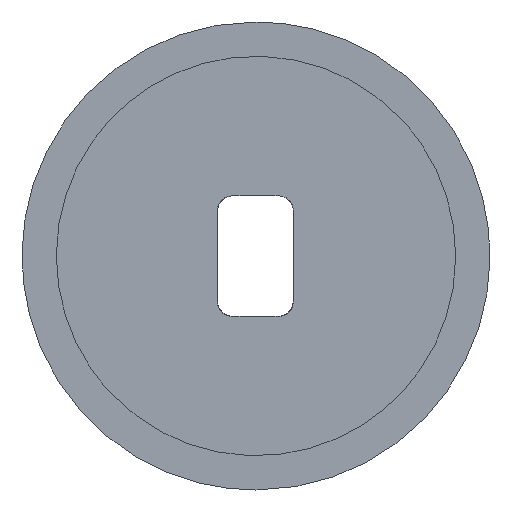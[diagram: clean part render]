
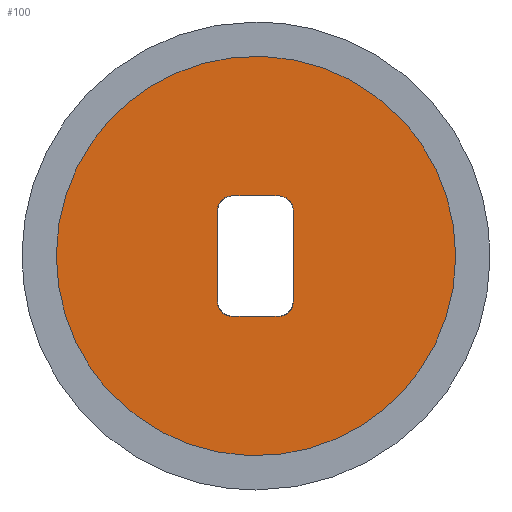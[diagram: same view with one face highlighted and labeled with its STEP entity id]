
A CAD part, front view. The second image highlights one B-rep face of the part: STEP entity #100.
In plain terms, the highlighted planar face has unit normal (0, -1, 0).
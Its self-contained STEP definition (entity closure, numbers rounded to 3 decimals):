
#91=FACE_BOUND('',#262,.T.);
#100=ADVANCED_FACE('',(#180,#91),#1202,.T.);
#180=FACE_OUTER_BOUND('',#261,.T.);
#261=EDGE_LOOP('',(#362,#363));
#262=EDGE_LOOP('',(#364,#365,#366,#367,#368,#369,#370,#371,#372,#373));
#362=ORIENTED_EDGE('',*,*,#716,.T.);
#363=ORIENTED_EDGE('',*,*,#749,.T.);
#364=ORIENTED_EDGE('',*,*,#742,.T.);
#365=ORIENTED_EDGE('',*,*,#741,.T.);
#366=ORIENTED_EDGE('',*,*,#740,.T.);
#367=ORIENTED_EDGE('',*,*,#739,.T.);
#368=ORIENTED_EDGE('',*,*,#738,.T.);
#369=ORIENTED_EDGE('',*,*,#737,.T.);
#370=ORIENTED_EDGE('',*,*,#746,.T.);
#371=ORIENTED_EDGE('',*,*,#745,.T.);
#372=ORIENTED_EDGE('',*,*,#744,.T.);
#373=ORIENTED_EDGE('',*,*,#743,.T.);
#716=EDGE_CURVE('',#1088,#1110,#987,.T.);
#737=EDGE_CURVE('',#1099,#1100,#920,.T.);
#738=EDGE_CURVE('',#1101,#1099,#921,.T.);
#739=EDGE_CURVE('',#1102,#1101,#922,.T.);
#740=EDGE_CURVE('',#1103,#1102,#923,.T.);
#741=EDGE_CURVE('',#1104,#1103,#924,.T.);
#742=EDGE_CURVE('',#1105,#1104,#925,.T.);
#743=EDGE_CURVE('',#1106,#1105,#926,.T.);
#744=EDGE_CURVE('',#1107,#1106,#927,.T.);
#745=EDGE_CURVE('',#1108,#1107,#928,.T.);
#746=EDGE_CURVE('',#1100,#1108,#929,.T.);
#749=EDGE_CURVE('',#1110,#1088,#990,.T.);
#920=B_SPLINE_CURVE_WITH_KNOTS('',3,(#1479,#1480,#1481,#1482),
 .UNSPECIFIED.,.F.,.F.,(4,4),(-1.715,0.),.UNSPECIFIED.);
#921=B_SPLINE_CURVE_WITH_KNOTS('',1,(#1483,#1484,#1485),.UNSPECIFIED.,.F.,
 .F.,(2,1,2),(-7.949,-6.45,-1.715),
 .UNSPECIFIED.);
#922=B_SPLINE_CURVE_WITH_KNOTS('',3,(#1486,#1487,#1488,#1489),
 .UNSPECIFIED.,.F.,.F.,(4,4),(-9.664,-7.949),
 .UNSPECIFIED.);
#923=B_SPLINE_CURVE_WITH_KNOTS('',3,(#1490,#1491,#1492,#1493),
 .UNSPECIFIED.,.F.,.F.,(4,4),(-11.281,-9.664),
 .UNSPECIFIED.);
#924=B_SPLINE_CURVE_WITH_KNOTS('',3,(#1494,#1495,#1496,#1497),
 .UNSPECIFIED.,.F.,.F.,(4,4),(-12.899,-11.281),
 .UNSPECIFIED.);
#925=B_SPLINE_CURVE_WITH_KNOTS('',3,(#1498,#1499,#1500,#1501),
 .UNSPECIFIED.,.F.,.F.,(4,4),(-14.614,-12.899),
 .UNSPECIFIED.);
#926=B_SPLINE_CURVE_WITH_KNOTS('',1,(#1502,#1503,#1504),.UNSPECIFIED.,.F.,
 .F.,(2,1,2),(-20.848,-19.349,-14.614),
 .UNSPECIFIED.);
#927=B_SPLINE_CURVE_WITH_KNOTS('',3,(#1505,#1506,#1507,#1508),
 .UNSPECIFIED.,.F.,.F.,(4,4),(-22.563,-20.848),
 .UNSPECIFIED.);
#928=B_SPLINE_CURVE_WITH_KNOTS('',3,(#1509,#1510,#1511,#1512),
 .UNSPECIFIED.,.F.,.F.,(4,4),(-24.181,-22.563),
 .UNSPECIFIED.);
#929=B_SPLINE_CURVE_WITH_KNOTS('',3,(#1513,#1514,#1515,#1516),
 .UNSPECIFIED.,.F.,.F.,(4,4),(-25.799,-24.181),
 .UNSPECIFIED.);
#987=(
BOUNDED_CURVE()
B_SPLINE_CURVE(2,(#1416,#1417,#1418,#1419,#1420),.UNSPECIFIED.,.F.,.F.)
B_SPLINE_CURVE_WITH_KNOTS((3,2,3),(0.,21.448,42.896),
 .UNSPECIFIED.)
CURVE()
GEOMETRIC_REPRESENTATION_ITEM()
RATIONAL_B_SPLINE_CURVE((1.,0.707,1.,0.707,1.))
REPRESENTATION_ITEM('')
);
#990=(
BOUNDED_CURVE()
B_SPLINE_CURVE(2,(#1524,#1525,#1526,#1527,#1528),.UNSPECIFIED.,.F.,.F.)
B_SPLINE_CURVE_WITH_KNOTS((3,2,3),(42.896,64.345,85.793),
 .UNSPECIFIED.)
CURVE()
GEOMETRIC_REPRESENTATION_ITEM()
RATIONAL_B_SPLINE_CURVE((1.,0.707,1.,0.707,1.))
REPRESENTATION_ITEM('')
);
#1088=VERTEX_POINT('',#1386);
#1099=VERTEX_POINT('',#1397);
#1100=VERTEX_POINT('',#1398);
#1101=VERTEX_POINT('',#1399);
#1102=VERTEX_POINT('',#1400);
#1103=VERTEX_POINT('',#1401);
#1104=VERTEX_POINT('',#1402);
#1105=VERTEX_POINT('',#1403);
#1106=VERTEX_POINT('',#1404);
#1107=VERTEX_POINT('',#1405);
#1108=VERTEX_POINT('',#1406);
#1110=VERTEX_POINT('',#1408);
#1202=PLANE('',#1269);
#1269=AXIS2_PLACEMENT_3D('',#1373,#1320,$);
#1320=DIRECTION('',(0.,-1.,0.));
#1373=CARTESIAN_POINT('',(-65.619,-136.519,-24.13));
#1386=CARTESIAN_POINT('',(-55.101,-136.519,9.405));
#1397=CARTESIAN_POINT('',(-62.438,-136.519,-3.125));
#1398=CARTESIAN_POINT('',(-63.42,-136.519,-4.125));
#1399=CARTESIAN_POINT('',(-62.438,-136.519,3.11));
#1400=CARTESIAN_POINT('',(-63.42,-136.519,4.11));
#1401=CARTESIAN_POINT('',(-65.038,-136.519,4.138));
#1402=CARTESIAN_POINT('',(-66.655,-136.519,4.11));
#1403=CARTESIAN_POINT('',(-67.638,-136.519,3.11));
#1404=CARTESIAN_POINT('',(-67.638,-136.519,-3.125));
#1405=CARTESIAN_POINT('',(-66.655,-136.519,-4.125));
#1406=CARTESIAN_POINT('',(-65.038,-136.519,-4.153));
#1408=CARTESIAN_POINT('',(-74.899,-136.519,-9.405));
#1416=CARTESIAN_POINT('',(-55.101,-136.519,9.405));
#1417=CARTESIAN_POINT('',(-64.505,-136.519,19.304));
#1418=CARTESIAN_POINT('',(-74.405,-136.519,9.899));
#1419=CARTESIAN_POINT('',(-84.304,-136.519,0.495));
#1420=CARTESIAN_POINT('',(-74.899,-136.519,-9.405));
#1479=CARTESIAN_POINT('',(-62.438,-136.519,-3.125));
#1480=CARTESIAN_POINT('',(-62.438,-136.519,-3.67));
#1481=CARTESIAN_POINT('',(-62.875,-136.519,-4.115));
#1482=CARTESIAN_POINT('',(-63.42,-136.519,-4.125));
#1483=CARTESIAN_POINT('',(-62.438,-136.519,3.11));
#1484=CARTESIAN_POINT('',(-62.438,-136.519,1.611));
#1485=CARTESIAN_POINT('',(-62.438,-136.519,-3.125));
#1486=CARTESIAN_POINT('',(-63.42,-136.519,4.11));
#1487=CARTESIAN_POINT('',(-62.875,-136.519,4.1));
#1488=CARTESIAN_POINT('',(-62.438,-136.519,3.655));
#1489=CARTESIAN_POINT('',(-62.438,-136.519,3.11));
#1490=CARTESIAN_POINT('',(-65.038,-136.519,4.138));
#1491=CARTESIAN_POINT('',(-64.499,-136.519,4.129));
#1492=CARTESIAN_POINT('',(-63.959,-136.519,4.119));
#1493=CARTESIAN_POINT('',(-63.42,-136.519,4.11));
#1494=CARTESIAN_POINT('',(-66.655,-136.519,4.11));
#1495=CARTESIAN_POINT('',(-66.116,-136.519,4.119));
#1496=CARTESIAN_POINT('',(-65.577,-136.519,4.129));
#1497=CARTESIAN_POINT('',(-65.038,-136.519,4.138));
#1498=CARTESIAN_POINT('',(-67.638,-136.519,3.11));
#1499=CARTESIAN_POINT('',(-67.638,-136.519,3.655));
#1500=CARTESIAN_POINT('',(-67.201,-136.519,4.1));
#1501=CARTESIAN_POINT('',(-66.655,-136.519,4.11));
#1502=CARTESIAN_POINT('',(-67.638,-136.519,-3.125));
#1503=CARTESIAN_POINT('',(-67.638,-136.519,-1.625));
#1504=CARTESIAN_POINT('',(-67.638,-136.519,3.11));
#1505=CARTESIAN_POINT('',(-66.655,-136.519,-4.125));
#1506=CARTESIAN_POINT('',(-67.201,-136.519,-4.115));
#1507=CARTESIAN_POINT('',(-67.638,-136.519,-3.67));
#1508=CARTESIAN_POINT('',(-67.638,-136.519,-3.125));
#1509=CARTESIAN_POINT('',(-65.038,-136.519,-4.153));
#1510=CARTESIAN_POINT('',(-65.577,-136.519,-4.143));
#1511=CARTESIAN_POINT('',(-66.116,-136.519,-4.134));
#1512=CARTESIAN_POINT('',(-66.655,-136.519,-4.125));
#1513=CARTESIAN_POINT('',(-63.42,-136.519,-4.125));
#1514=CARTESIAN_POINT('',(-63.959,-136.519,-4.134));
#1515=CARTESIAN_POINT('',(-64.499,-136.519,-4.143));
#1516=CARTESIAN_POINT('',(-65.038,-136.519,-4.153));
#1524=CARTESIAN_POINT('',(-74.899,-136.519,-9.405));
#1525=CARTESIAN_POINT('',(-65.495,-136.519,-19.304));
#1526=CARTESIAN_POINT('',(-55.595,-136.519,-9.899));
#1527=CARTESIAN_POINT('',(-45.696,-136.519,-0.495));
#1528=CARTESIAN_POINT('',(-55.101,-136.519,9.405));
